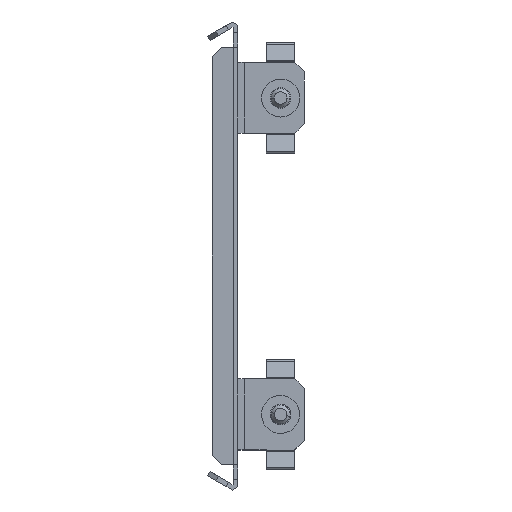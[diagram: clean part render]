
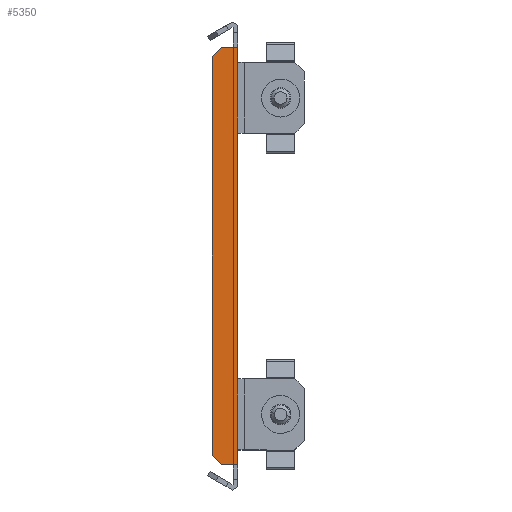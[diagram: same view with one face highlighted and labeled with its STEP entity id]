
A CAD part, front view. The second image highlights one B-rep face of the part: STEP entity #5350.
In plain terms, the highlighted planar face has unit normal (0, -1, 0).
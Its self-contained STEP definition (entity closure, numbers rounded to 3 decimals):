
#85 = DIRECTION ( 'NONE',  ( 0., 0., 1. ) ) ;
#187 = EDGE_CURVE ( 'NONE', #707, #16506, #2695, .T. ) ;
#208 = DIRECTION ( 'NONE',  ( -1., 0., 0. ) ) ;
#707 = VERTEX_POINT ( 'NONE', #8647 ) ;
#1019 = DIRECTION ( 'NONE',  ( 1., 0., 0. ) ) ;
#1206 = DIRECTION ( 'NONE',  ( 0., 0., -1. ) ) ;
#2442 = LINE ( 'NONE', #3724, #10602 ) ;
#2695 = LINE ( 'NONE', #17268, #15235 ) ;
#3001 = VECTOR ( 'NONE', #208, 1000. ) ;
#3257 = CARTESIAN_POINT ( 'NONE',  ( -5., -353., 65.897 ) ) ;
#3435 = LINE ( 'NONE', #6071, #9638 ) ;
#3489 = CARTESIAN_POINT ( 'NONE',  ( -35.448, -353., 35.448 ) ) ;
#3576 = ORIENTED_EDGE ( 'NONE', *, *, #12251, .T. ) ;
#3720 = VECTOR ( 'NONE', #1019, 1000. ) ;
#3724 = CARTESIAN_POINT ( 'NONE',  ( 0., -353., 0. ) ) ;
#3770 = CARTESIAN_POINT ( 'NONE',  ( 0., -353., 0. ) ) ;
#3796 = CARTESIAN_POINT ( 'NONE',  ( 0., -353., -65.897 ) ) ;
#3882 = ORIENTED_EDGE ( 'NONE', *, *, #18592, .T. ) ;
#3965 = LINE ( 'NONE', #16173, #14987 ) ;
#4016 = VERTEX_POINT ( 'NONE', #11355 ) ;
#4061 = ORIENTED_EDGE ( 'NONE', *, *, #17833, .T. ) ;
#4542 = VERTEX_POINT ( 'NONE', #13233 ) ;
#4545 = VECTOR ( 'NONE', #11394, 1000. ) ;
#4607 = AXIS2_PLACEMENT_3D ( 'NONE', #6107, #7692, #13645 ) ;
#5350 = ADVANCED_FACE ( 'NONE', ( #13548 ), #15095, .F. ) ;
#5998 = VECTOR ( 'NONE', #7812, 1000. ) ;
#6071 = CARTESIAN_POINT ( 'NONE',  ( 0., -353., 0. ) ) ;
#6107 = CARTESIAN_POINT ( 'NONE',  ( 0., -353., 0. ) ) ;
#6605 = ORIENTED_EDGE ( 'NONE', *, *, #8531, .T. ) ;
#6752 = EDGE_CURVE ( 'NONE', #13425, #8019, #3965, .T. ) ;
#7649 = VECTOR ( 'NONE', #15408, 1000. ) ;
#7692 = DIRECTION ( 'NONE',  ( 0., 1., 0. ) ) ;
#7719 = CARTESIAN_POINT ( 'NONE',  ( 0., -353., 0. ) ) ;
#7771 = CARTESIAN_POINT ( 'NONE',  ( 0., -353., 65.897 ) ) ;
#7812 = DIRECTION ( 'NONE',  ( 0., 0., 1. ) ) ;
#8019 = VERTEX_POINT ( 'NONE', #11952 ) ;
#8026 = CARTESIAN_POINT ( 'NONE',  ( 0., -353., 65.897 ) ) ;
#8241 = DIRECTION ( 'NONE',  ( 0., 0., -1. ) ) ;
#8341 = CARTESIAN_POINT ( 'NONE',  ( -8., -353., 0. ) ) ;
#8454 = CARTESIAN_POINT ( 'NONE',  ( 0., -353., 38.75 ) ) ;
#8531 = EDGE_CURVE ( 'NONE', #14021, #4542, #15126, .T. ) ;
#8566 = ORIENTED_EDGE ( 'NONE', *, *, #187, .F. ) ;
#8647 = CARTESIAN_POINT ( 'NONE',  ( 0., -353., -38.75 ) ) ;
#9249 = CARTESIAN_POINT ( 'NONE',  ( 0., -353., -61.095 ) ) ;
#9638 = VECTOR ( 'NONE', #85, 1000. ) ;
#9674 = VERTEX_POINT ( 'NONE', #3257 ) ;
#10413 = VERTEX_POINT ( 'NONE', #8026 ) ;
#10557 = EDGE_CURVE ( 'NONE', #9674, #4016, #12397, .T. ) ;
#10602 = VECTOR ( 'NONE', #18771, 1000. ) ;
#10717 = ORIENTED_EDGE ( 'NONE', *, *, #14186, .T. ) ;
#11063 = VERTEX_POINT ( 'NONE', #17807 ) ;
#11355 = CARTESIAN_POINT ( 'NONE',  ( -8., -353., 62.897 ) ) ;
#11394 = DIRECTION ( 'NONE',  ( 0., 0., 1. ) ) ;
#11952 = CARTESIAN_POINT ( 'NONE',  ( -5., -353., -65.897 ) ) ;
#11985 = VECTOR ( 'NONE', #8241, 1000. ) ;
#12251 = EDGE_CURVE ( 'NONE', #10413, #9674, #13922, .T. ) ;
#12397 = LINE ( 'NONE', #3489, #7649 ) ;
#12596 = ORIENTED_EDGE ( 'NONE', *, *, #16997, .T. ) ;
#13233 = CARTESIAN_POINT ( 'NONE',  ( 0., -353., 61.095 ) ) ;
#13425 = VERTEX_POINT ( 'NONE', #17283 ) ;
#13548 = FACE_OUTER_BOUND ( 'NONE', #18510, .T. ) ;
#13645 = DIRECTION ( 'NONE',  ( 1., 0., 0. ) ) ;
#13922 = LINE ( 'NONE', #7771, #3001 ) ;
#13979 = ORIENTED_EDGE ( 'NONE', *, *, #10557, .T. ) ;
#14021 = VERTEX_POINT ( 'NONE', #8454 ) ;
#14186 = EDGE_CURVE ( 'NONE', #8019, #11063, #19267, .T. ) ;
#14427 = DIRECTION ( 'NONE',  ( 0.707, 0., -0.707 ) ) ;
#14934 = ORIENTED_EDGE ( 'NONE', *, *, #6752, .T. ) ;
#14987 = VECTOR ( 'NONE', #14427, 1000. ) ;
#15095 = PLANE ( 'NONE',  #4607 ) ;
#15126 = LINE ( 'NONE', #7719, #5998 ) ;
#15235 = VECTOR ( 'NONE', #1206, 1000. ) ;
#15408 = DIRECTION ( 'NONE',  ( -0.707, 0., -0.707 ) ) ;
#15880 = LINE ( 'NONE', #3770, #4545 ) ;
#16173 = CARTESIAN_POINT ( 'NONE',  ( -35.448, -353., -35.448 ) ) ;
#16506 = VERTEX_POINT ( 'NONE', #9249 ) ;
#16997 = EDGE_CURVE ( 'NONE', #4016, #13425, #18503, .T. ) ;
#17268 = CARTESIAN_POINT ( 'NONE',  ( 0., -353., 0. ) ) ;
#17283 = CARTESIAN_POINT ( 'NONE',  ( -8., -353., -62.897 ) ) ;
#17807 = CARTESIAN_POINT ( 'NONE',  ( 0., -353., -65.897 ) ) ;
#17833 = EDGE_CURVE ( 'NONE', #707, #14021, #15880, .T. ) ;
#18485 = EDGE_CURVE ( 'NONE', #11063, #16506, #3435, .T. ) ;
#18503 = LINE ( 'NONE', #8341, #11985 ) ;
#18510 = EDGE_LOOP ( 'NONE', ( #10717, #18904, #8566, #4061, #6605, #3882, #3576, #13979, #12596, #14934 ) ) ;
#18592 = EDGE_CURVE ( 'NONE', #4542, #10413, #2442, .T. ) ;
#18771 = DIRECTION ( 'NONE',  ( 0., 0., 1. ) ) ;
#18904 = ORIENTED_EDGE ( 'NONE', *, *, #18485, .T. ) ;
#19267 = LINE ( 'NONE', #3796, #3720 ) ;
